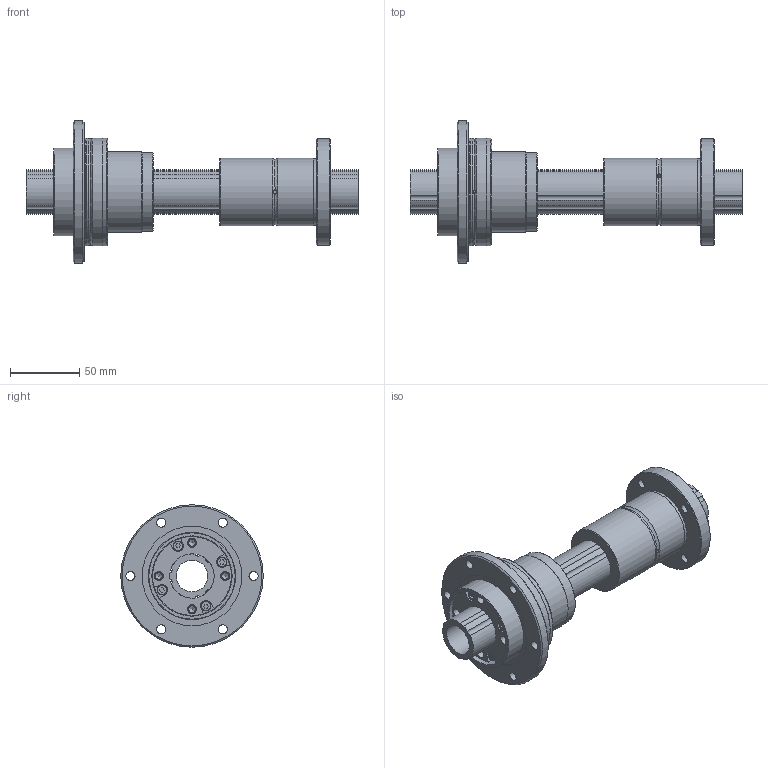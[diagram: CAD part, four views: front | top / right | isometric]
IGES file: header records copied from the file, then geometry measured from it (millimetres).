
Start section: Data from Parasolid IGES Translator 26.0.171, Copyright(c) 2006 Siemens PLM Software. All Rights Reserved.
Global section: file name: NS3232A+240L.igs; native system: By Siemens PLM Incorporated; preprocessor: XPlus GENERIC/IGES 26.0.171; author: Noname; organization: Noname; date: 20250611.084544; units: millimetre
Bounding box: 240 x 103 x 103 mm (x, y, z)
Surface area: 116532.8 mm2 (no closed solid volume)
Topology: 0 solids, 0 shells, 170 faces, 778 edges, 681 vertices
Faces by surface type: revolution 97, extrusion 73
